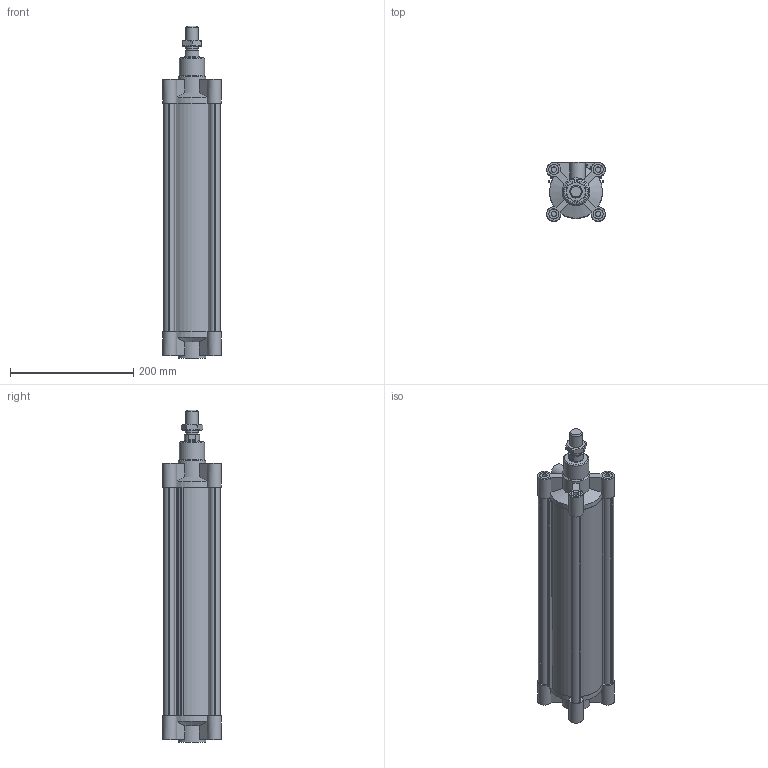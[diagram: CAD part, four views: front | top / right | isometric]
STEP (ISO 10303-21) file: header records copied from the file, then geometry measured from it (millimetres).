
FILE_DESCRIPTION((''),'2;1');
FILE_NAME('I:\Area Tecnica\Disegni\VARIE-3D\Componenti\ECOLIGHT\139#.##_0000_01\stp\139#_80_0320_01.iam.stp','2012-01-28T08:03:13',(''),(''),'Autodesk Inventor 2012','Autodesk Inventor 2012','');
FILE_SCHEMA(('AUTOMOTIVE_DESIGN { 1 0 10303 214 1 1 1 1 }'));
Length unit declared in the file: millimetre
Products named in the file (6): 139#_80_0320_01; CPL080_004-320; CPL080-001-01; CPL080-002-01; CPL_80_0320; 1320_80_18F
Assembly tree (5 placements, depth 2):
  139#_80_0320_01
    CPL080_004-320
    CPL080-001-01
    CPL080-002-01
    CPL_80_0320
    1320_80_18F
Bounding box: 95 x 95 x 538.5 mm (x, y, z)
Volume: 1430602.5 mm3; surface area: 472611.8 mm2
Topology: 5 solids, 5 shells, 264 faces, 648 edges, 426 vertices
Faces by surface type: plane 154, cylinder 83, cone 26, torus 1
Full cylindrical faces by diameter (mm): 8.5 x8, 12 x2, 15.2 x2, 16 x8, 16.5 x8, 18 x1, 18.5 x1, 20 x1, 24.5 x1, 25 x2, 41 x1, 45 x2, 80 x4
Entity records: 7874 total; most frequent: CARTESIAN_POINT 1483, DIRECTION 1288, ORIENTED_EDGE 1186, EDGE_CURVE 593, AXIS2_PLACEMENT_3D 476, VERTEX_POINT 419, EDGE_LOOP 358, VECTOR 336
